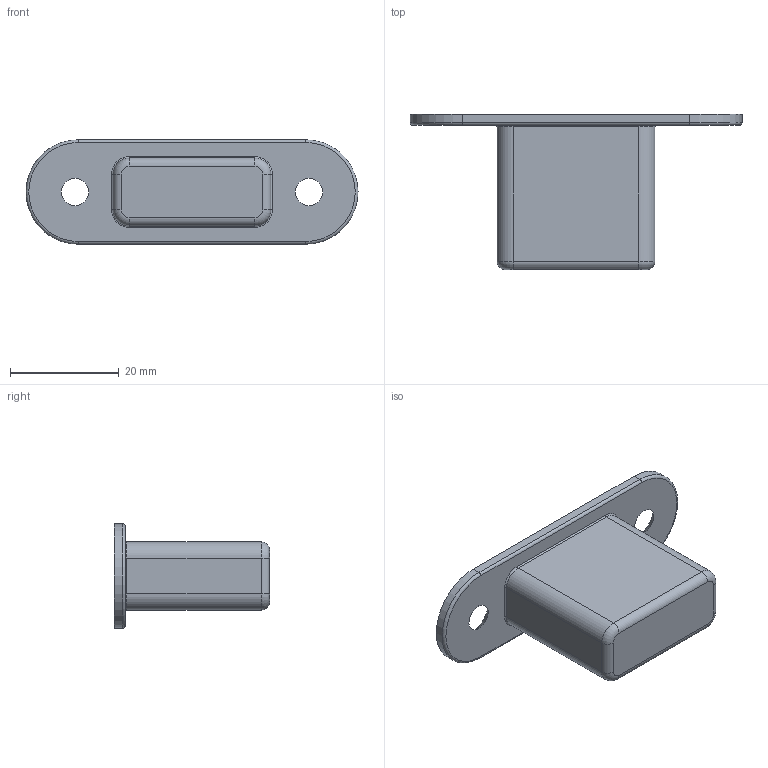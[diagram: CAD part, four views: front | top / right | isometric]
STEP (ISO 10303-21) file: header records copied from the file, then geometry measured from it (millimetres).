
FILE_DESCRIPTION (( 'STEP AP214' ), '1' );
FILE_NAME ('TPL-W-030 single cup 04June2025.STEP', '2025-06-04T01:14:36', ( '' ), ( '' ), 'SwSTEP 2.0', 'SolidWorks 2023', '' );
FILE_SCHEMA (( 'AUTOMOTIVE_DESIGN' ));
Length unit declared in the file: millimetre
Products named in the file (1): TPL-W-030 single cup 04June2025
Bounding box: 61 x 28.5 x 19.2 mm (x, y, z)
Volume: 5775.8 mm3; surface area: 6104.5 mm2
Topology: 1 solids, 1 shells, 64 faces, 144 edges, 84 vertices
Faces by surface type: cylinder 28, torus 18, plane 14, cone 4
Entity records: 1813 total; most frequent: DIRECTION 356, CARTESIAN_POINT 293, ORIENTED_EDGE 288, AXIS2_PLACEMENT_3D 147, EDGE_CURVE 144, VERTEX_POINT 84, CIRCLE 82, EDGE_LOOP 70
